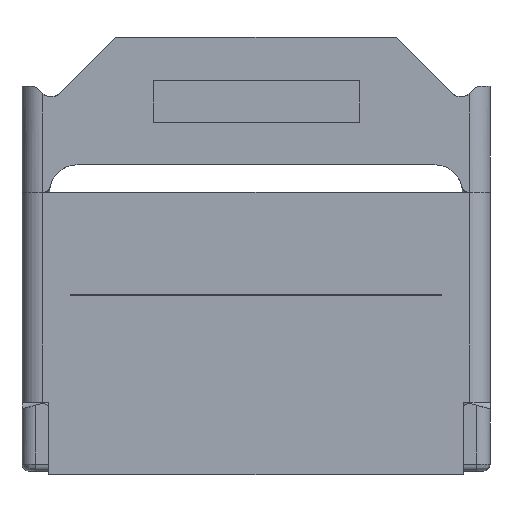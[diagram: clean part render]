
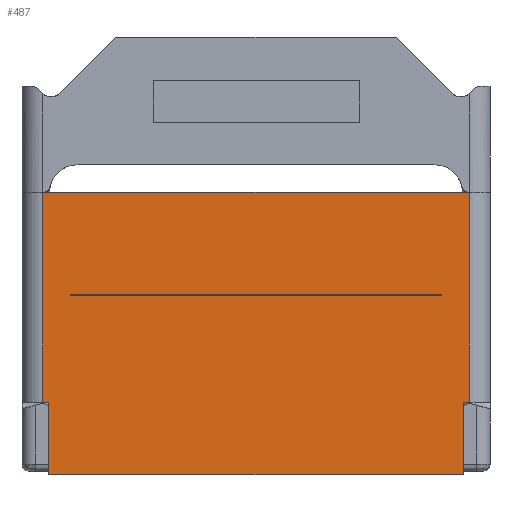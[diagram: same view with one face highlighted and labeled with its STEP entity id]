
A CAD part, left-side view. The second image highlights one B-rep face of the part: STEP entity #487.
In plain terms, the highlighted planar face has unit normal (-1, 0, 0).
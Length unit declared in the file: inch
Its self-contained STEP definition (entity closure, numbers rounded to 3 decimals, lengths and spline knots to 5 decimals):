
#282=FACE_BOUND('',#1146,.T.);
#487=ADVANCED_FACE('',(#890,#282),#669,.T.);
#669=PLANE('',#5020);
#890=FACE_OUTER_BOUND('',#1145,.T.);
#1145=EDGE_LOOP('',(#2364,#2365,#2366,#2367,#2368,#2369,#2370,#2371));
#1146=EDGE_LOOP('',(#2372,#2373,#2374,#2375));
#2364=ORIENTED_EDGE('',*,*,#3107,.T.);
#2365=ORIENTED_EDGE('',*,*,#3435,.T.);
#2366=ORIENTED_EDGE('',*,*,#3378,.T.);
#2367=ORIENTED_EDGE('',*,*,#3602,.T.);
#2368=ORIENTED_EDGE('',*,*,#3642,.T.);
#2369=ORIENTED_EDGE('',*,*,#3637,.F.);
#2370=ORIENTED_EDGE('',*,*,#3712,.F.);
#2371=ORIENTED_EDGE('',*,*,#3318,.T.);
#2372=ORIENTED_EDGE('',*,*,#3670,.T.);
#2373=ORIENTED_EDGE('',*,*,#3689,.T.);
#2374=ORIENTED_EDGE('',*,*,#3694,.F.);
#2375=ORIENTED_EDGE('',*,*,#3713,.F.);
#2665=VERTEX_POINT('',#6208);
#2666=VERTEX_POINT('',#6210);
#2831=VERTEX_POINT('',#7171);
#2871=VERTEX_POINT('',#7472);
#2872=VERTEX_POINT('',#7474);
#3012=VERTEX_POINT('',#8244);
#3025=VERTEX_POINT('',#8404);
#3026=VERTEX_POINT('',#8406);
#3050=VERTEX_POINT('',#8468);
#3051=VERTEX_POINT('',#8470);
#3068=VERTEX_POINT('',#8506);
#3071=VERTEX_POINT('',#8516);
#3107=EDGE_CURVE('',#2666,#2665,#3793,.T.);
#3318=EDGE_CURVE('',#2831,#2666,#3915,.T.);
#3378=EDGE_CURVE('',#2872,#2871,#3948,.T.);
#3435=EDGE_CURVE('',#2665,#2872,#3985,.T.);
#3602=EDGE_CURVE('',#2871,#3012,#4137,.T.);
#3637=EDGE_CURVE('',#3025,#3026,#4164,.T.);
#3642=EDGE_CURVE('',#3012,#3026,#4168,.T.);
#3670=EDGE_CURVE('',#3051,#3050,#4195,.T.);
#3689=EDGE_CURVE('',#3050,#3068,#4214,.T.);
#3694=EDGE_CURVE('',#3071,#3068,#4218,.T.);
#3712=EDGE_CURVE('',#2831,#3025,#4230,.T.);
#3713=EDGE_CURVE('',#3051,#3071,#4231,.T.);
#3793=LINE('',#6209,#4293);
#3915=LINE('',#7173,#4415);
#3948=LINE('',#7473,#4448);
#3985=LINE('',#7716,#4485);
#4137=LINE('',#8245,#4637);
#4164=LINE('',#8405,#4664);
#4168=LINE('',#8414,#4668);
#4195=LINE('',#8469,#4695);
#4214=LINE('',#8507,#4714);
#4218=LINE('',#8517,#4718);
#4230=LINE('',#8580,#4730);
#4231=LINE('',#8582,#4731);
#4293=VECTOR('',#5101,1.);
#4415=VECTOR('',#5363,1.);
#4448=VECTOR('',#5440,1.);
#4485=VECTOR('',#5507,1.);
#4637=VECTOR('',#5791,1.);
#4664=VECTOR('',#5866,1.);
#4668=VECTOR('',#5874,1.);
#4695=VECTOR('',#5913,1.);
#4714=VECTOR('',#5934,1.);
#4718=VECTOR('',#5944,1.);
#4730=VECTOR('',#5992,1.);
#4731=VECTOR('',#5995,1.);
#5020=AXIS2_PLACEMENT_3D('',#8583,#5996,#5997);
#5101=DIRECTION('',(0.,1.,0.));
#5363=DIRECTION('',(0.,0.,1.));
#5440=DIRECTION('',(0.,-1.,0.));
#5507=DIRECTION('',(0.,0.,-1.));
#5791=DIRECTION('',(0.,0.,-1.));
#5866=DIRECTION('',(0.,0.,-1.));
#5874=DIRECTION('',(0.,-1.,0.));
#5913=DIRECTION('',(0.,0.,-1.));
#5934=DIRECTION('',(0.,1.,0.));
#5944=DIRECTION('',(0.,0.,-1.));
#5992=DIRECTION('',(0.,1.,0.));
#5995=DIRECTION('',(0.,1.,0.));
#5996=DIRECTION('',(-1.,0.,0.));
#5997=DIRECTION('',(0.,0.,1.));
#6208=CARTESIAN_POINT('',(0.,0.65,0.41));
#6209=CARTESIAN_POINT('',(0.,0.03,0.41));
#6210=CARTESIAN_POINT('',(0.,0.03,0.41));
#7171=CARTESIAN_POINT('',(0.,0.03,0.105));
#7173=CARTESIAN_POINT('',(0.,0.03,0.105));
#7472=CARTESIAN_POINT('',(0.,0.641,0.105));
#7473=CARTESIAN_POINT('',(0.,0.65,0.105));
#7474=CARTESIAN_POINT('',(0.,0.65,0.105));
#7716=CARTESIAN_POINT('',(0.,0.65,0.41));
#8244=CARTESIAN_POINT('',(0.,0.641,0.));
#8245=CARTESIAN_POINT('',(0.,0.641,0.105));
#8404=CARTESIAN_POINT('',(0.,0.039,0.105));
#8405=CARTESIAN_POINT('',(0.,0.039,0.105));
#8406=CARTESIAN_POINT('',(0.,0.039,0.));
#8414=CARTESIAN_POINT('',(0.,0.641,0.));
#8468=CARTESIAN_POINT('',(0.,0.07,0.26));
#8469=CARTESIAN_POINT('',(0.,0.07,0.262));
#8470=CARTESIAN_POINT('',(0.,0.07,0.262));
#8506=CARTESIAN_POINT('',(0.,0.61,0.26));
#8507=CARTESIAN_POINT('',(0.,0.07,0.26));
#8516=CARTESIAN_POINT('',(0.,0.61,0.262));
#8517=CARTESIAN_POINT('',(0.,0.61,0.262));
#8580=CARTESIAN_POINT('',(0.,0.03,0.105));
#8582=CARTESIAN_POINT('',(0.,0.07,0.262));
#8583=CARTESIAN_POINT('',(0.,0.34,0.));
